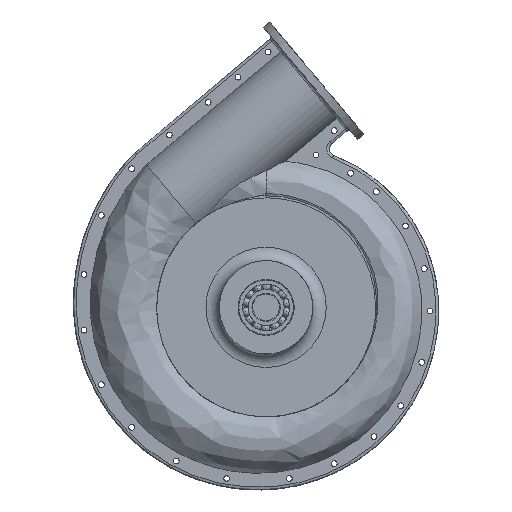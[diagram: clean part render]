
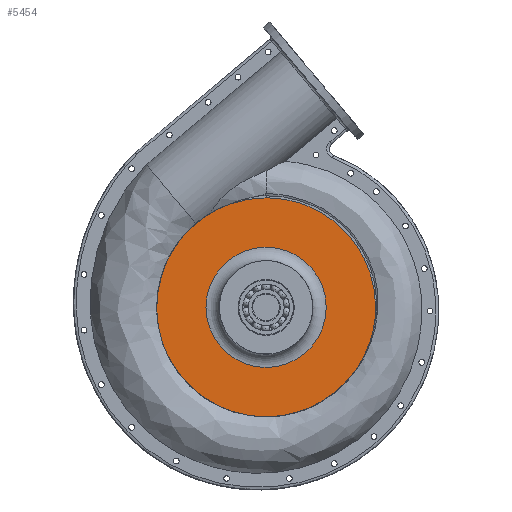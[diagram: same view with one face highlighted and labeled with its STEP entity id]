
A CAD part, front view. The second image highlights one B-rep face of the part: STEP entity #5454.
In plain terms, the highlighted planar face has unit normal (0, 1, 0).
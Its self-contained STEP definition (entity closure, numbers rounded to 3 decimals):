
#287=FACE_BOUND('',#1561,.T.);
#344=PLANE('',#6194);
#1131=FACE_OUTER_BOUND('',#1560,.T.);
#1560=EDGE_LOOP('',(#4777,#4778,#4779,#4780,#4781,#4782));
#1561=EDGE_LOOP('',(#4783));
#1828=B_SPLINE_CURVE_WITH_KNOTS('',3,(#23855,#23856,#23857,#23858,#23859,
#23860,#23861,#23862),.UNSPECIFIED.,.F.,.F.,(4,2,2,4),(-5.558,
-3.605,-1.905,-0.306),.UNSPECIFIED.);
#1829=B_SPLINE_CURVE_WITH_KNOTS('',3,(#23864,#23865,#23866,#23867,#23868,
#23869,#23870,#23871,#23872,#23873,#23874,#23875,#23876,#23877,#23878,#23879),
 .UNSPECIFIED.,.F.,.F.,(4,2,2,2,2,2,2,4),(-12.905,-12.527,
-11.598,-8.795,-7.159,-5.612,
-3.22,0.),.UNSPECIFIED.);
#2161=CIRCLE('',#6182,10.5);
#2167=CIRCLE('',#6193,82.);
#2168=CIRCLE('',#6195,82.);
#2169=CIRCLE('',#6196,82.);
#2170=CIRCLE('',#6197,82.);
#2615=VERTEX_POINT('',#18133);
#2640=VERTEX_POINT('',#18355);
#2645=VERTEX_POINT('',#23139);
#2646=VERTEX_POINT('',#23144);
#2653=VERTEX_POINT('',#23852);
#2654=VERTEX_POINT('',#23854);
#2655=VERTEX_POINT('',#23863);
#3372=EDGE_CURVE('',#2640,#2640,#2161,.T.);
#3396=EDGE_CURVE('',#2646,#2645,#2167,.T.);
#3397=EDGE_CURVE('',#2653,#2615,#2168,.T.);
#3398=EDGE_CURVE('',#2654,#2615,#1828,.T.);
#3399=EDGE_CURVE('',#2655,#2654,#1829,.T.);
#3400=EDGE_CURVE('',#2646,#2655,#2169,.T.);
#3401=EDGE_CURVE('',#2653,#2645,#2170,.T.);
#4777=ORIENTED_EDGE('',*,*,#3397,.T.);
#4778=ORIENTED_EDGE('',*,*,#3398,.F.);
#4779=ORIENTED_EDGE('',*,*,#3399,.F.);
#4780=ORIENTED_EDGE('',*,*,#3400,.F.);
#4781=ORIENTED_EDGE('',*,*,#3396,.T.);
#4782=ORIENTED_EDGE('',*,*,#3401,.F.);
#4783=ORIENTED_EDGE('',*,*,#3372,.T.);
#5454=ADVANCED_FACE('',(#1131,#287),#344,.T.);
#6182=AXIS2_PLACEMENT_3D('',#18357,#7425,#7426);
#6193=AXIS2_PLACEMENT_3D('',#23850,#7448,#7449);
#6194=AXIS2_PLACEMENT_3D('',#23851,#7450,#7451);
#6195=AXIS2_PLACEMENT_3D('',#23853,#7452,#7453);
#6196=AXIS2_PLACEMENT_3D('',#23880,#7454,#7455);
#6197=AXIS2_PLACEMENT_3D('',#23881,#7456,#7457);
#7425=DIRECTION('center_axis',(0.,-1.,0.));
#7426=DIRECTION('ref_axis',(-0.949,0.,-0.314));
#7448=DIRECTION('center_axis',(0.,1.,0.));
#7449=DIRECTION('ref_axis',(1.,0.,0.));
#7450=DIRECTION('center_axis',(0.,1.,0.));
#7451=DIRECTION('ref_axis',(0.,0.,1.));
#7452=DIRECTION('center_axis',(0.,1.,0.));
#7453=DIRECTION('ref_axis',(1.,0.,0.));
#7454=DIRECTION('center_axis',(0.,-1.,0.));
#7455=DIRECTION('ref_axis',(-1.,0.,0.));
#7456=DIRECTION('center_axis',(0.,-1.,0.));
#7457=DIRECTION('ref_axis',(-1.,0.,0.));
#18133=CARTESIAN_POINT('',(-48.955,-2.,65.783));
#18355=CARTESIAN_POINT('',(9.967,-2.,3.302));
#18357=CARTESIAN_POINT('Origin',(0.,-2.,0.));
#23139=CARTESIAN_POINT('',(19.671,-2.,-79.606));
#23144=CARTESIAN_POINT('',(78.17,-2.,-24.768));
#23850=CARTESIAN_POINT('Origin',(0.,-2.,0.));
#23851=CARTESIAN_POINT('Origin',(0.,-2.,0.));
#23852=CARTESIAN_POINT('',(0.,-2.,-82.));
#23853=CARTESIAN_POINT('Origin',(0.,-2.,0.));
#23854=CARTESIAN_POINT('',(0.,-2.,82.));
#23855=CARTESIAN_POINT('Ctrl Pts',(0.,-2.,82.));
#23856=CARTESIAN_POINT('Ctrl Pts',(-6.509,-2.,82.));
#23857=CARTESIAN_POINT('Ctrl Pts',(-12.995,-2.,81.225));
#23858=CARTESIAN_POINT('Ctrl Pts',(-24.829,-2.,78.356));
#23859=CARTESIAN_POINT('Ctrl Pts',(-30.185,-2.,76.453));
#23860=CARTESIAN_POINT('Ctrl Pts',(-40.111,-2.,71.718));
#23861=CARTESIAN_POINT('Ctrl Pts',(-44.684,-2.,68.962));
#23862=CARTESIAN_POINT('Ctrl Pts',(-48.955,-2.,65.783));
#23863=CARTESIAN_POINT('',(82.,-2.,0.));
#23864=CARTESIAN_POINT('Ctrl Pts',(82.,-2.,0.));
#23865=CARTESIAN_POINT('Ctrl Pts',(82.,-2.,1.258));
#23866=CARTESIAN_POINT('Ctrl Pts',(81.971,-2.,2.516));
#23867=CARTESIAN_POINT('Ctrl Pts',(81.771,-2.,6.866));
#23868=CARTESIAN_POINT('Ctrl Pts',(81.453,-2.,9.949));
#23869=CARTESIAN_POINT('Ctrl Pts',(79.48,-2.,22.231));
#23870=CARTESIAN_POINT('Ctrl Pts',(76.432,-2.,31.135));
#23871=CARTESIAN_POINT('Ctrl Pts',(69.334,-2.,44.12));
#23872=CARTESIAN_POINT('Ctrl Pts',(66.246,-2.,48.633));
#23873=CARTESIAN_POINT('Ctrl Pts',(59.414,-2.,56.75));
#23874=CARTESIAN_POINT('Ctrl Pts',(55.729,-2.,60.373));
#23875=CARTESIAN_POINT('Ctrl Pts',(45.543,-2.,68.654));
#23876=CARTESIAN_POINT('Ctrl Pts',(38.657,-2.,72.754));
#23877=CARTESIAN_POINT('Ctrl Pts',(21.366,-2.,79.892));
#23878=CARTESIAN_POINT('Ctrl Pts',(10.735,-2.,82.));
#23879=CARTESIAN_POINT('Ctrl Pts',(0.,-2.,82.));
#23880=CARTESIAN_POINT('Origin',(0.,-2.,0.));
#23881=CARTESIAN_POINT('Origin',(0.,-2.,0.));
